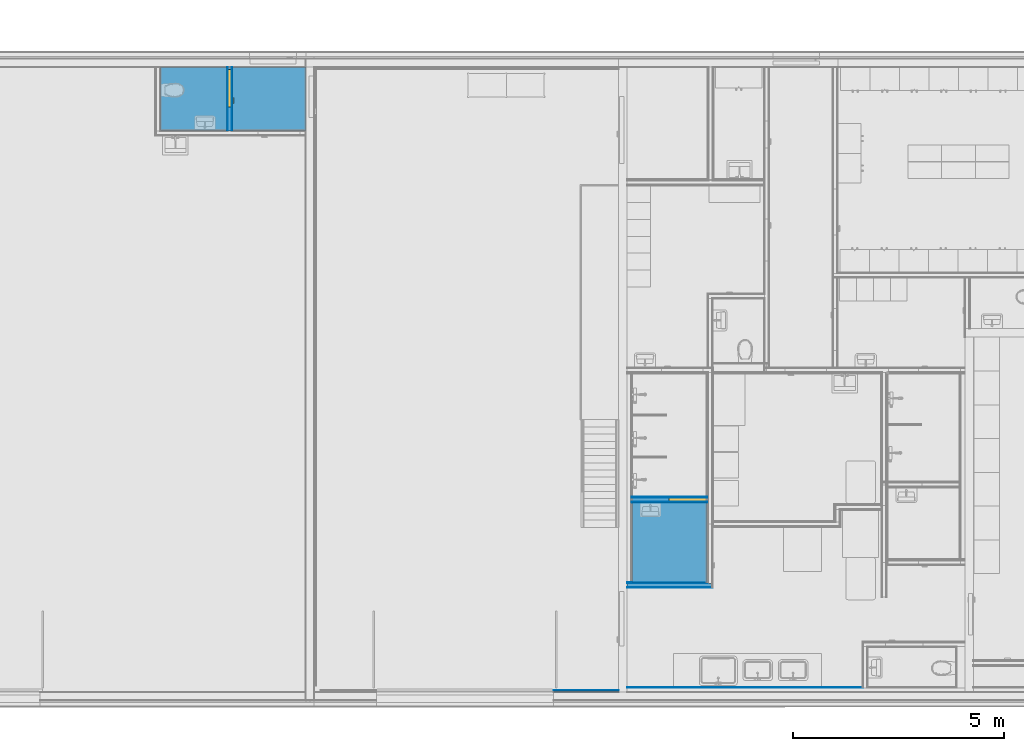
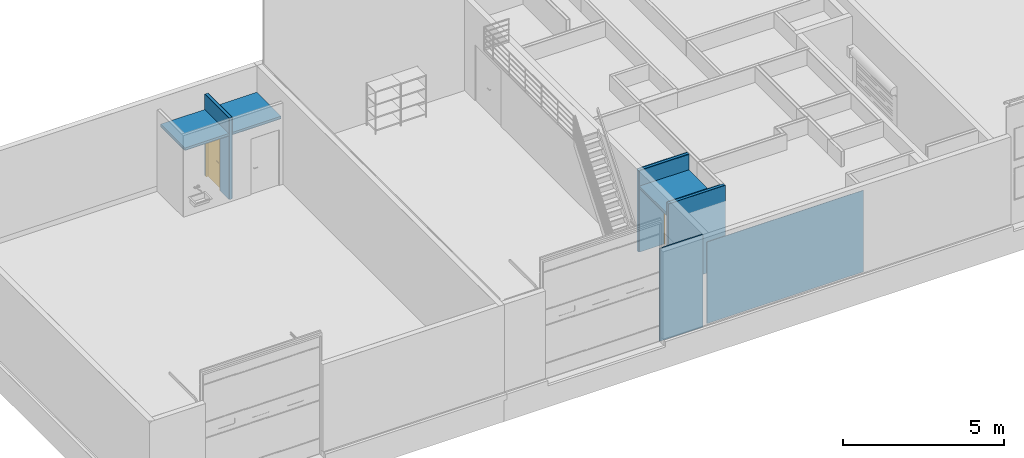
# One storey, part 3 of 67: 21 building element parts, 2 doors, 2 openings, 8 elements without a shape of their own.
"""IFC4 building model written with IfcOpenShell, lengths in millimetres."""

from ifc_helpers import new_model, entity, si_unit, converted_unit, direction, frame, origin, place, context, subcontext, project, spatial, indexed_curve, outline, extrude, polygons, source, transform, mapped, material, constituent, constituent_set, type_object, type_shapes, element, fill, aggregate, save


model = new_model("IFC4")

# Units and contexts
model_context = context("Model", 3, precision=0.01, world=origin(), true_north=direction((0.0, 1.0)))
body_context = subcontext(model_context, "Body", "Model", "MODEL_VIEW")
ifc_project = project(units=[si_unit("LENGTHUNIT", "METRE", prefix="MILLI"), si_unit("AREAUNIT", "SQUARE_METRE"), si_unit("VOLUMEUNIT", "CUBIC_METRE"), converted_unit("PLANEANGLEUNIT", "DEGREE", entity("IfcPlaneAngleMeasure", 0.017453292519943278), si_unit("PLANEANGLEUNIT", "RADIAN"), dimensions=[0, 0, 0, 0, 0, 0, 0])], contexts=[model_context])

# Site, building, storey
site_placement = place(None, origin())
site = spatial("IfcSite", under=ifc_project, at=site_placement, Name="Tomtens navn", CompositionType="ELEMENT")
building_placement = place(site_placement, origin())
building = spatial("IfcBuilding", under=site, at=building_placement, Name="Byggets navn", CompositionType="ELEMENT")
storey_placement = place(building_placement, origin())
storey = spatial("IfcBuildingStorey", under=building, at=storey_placement, Name="Level 01", CompositionType="ELEMENT", Elevation=2.1993652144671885e-25)

# Door
ifc_material_1 = material(Name="<Unnamed>")
door_type_1 = type_object("IfcDoorType", Name="M_Door_ID_Cased-Opening:910 x 2110mm", OperationType="NOTDEFINED", PredefinedType="DOOR", material=ifc_material_1)
shared_shape_1 = source(origin(), body_context, "Body", "Tessellation", [
    polygons([(869.9999999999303, 1.0151879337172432e-13, 0.0), (869.9999999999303, 147.00000000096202, 0.0), (910.0000000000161, 147.00000000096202, 0.0), (910.0000000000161, 1.0151879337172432e-13, 0.0), (910.0000000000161, 1.0151879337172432e-13, 2109.999999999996), (869.9999999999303, 1.0151879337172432e-13, 2069.9999999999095), (910.0000000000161, 147.00000000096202, 2109.999999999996), (869.9999999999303, 147.00000000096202, 2069.9999999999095), (6.497202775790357e-12, 1.0151879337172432e-13, 2109.999999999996), (40.00000000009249, 1.0151879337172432e-13, 2069.99999999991), (6.497202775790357e-12, 147.00000000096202, 2109.999999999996), (40.00000000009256, 147.00000000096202, 2069.99999999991), (40.00000000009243, 1.0151879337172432e-13, 0.0), (6.497202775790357e-12, 1.0151879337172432e-13, 0.0), (6.497202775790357e-12, 147.00000000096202, 0.0), (40.00000000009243, 147.00000000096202, 0.0)], [[[1, 2, 3, 4]], [[4, 5, 6, 1]], [[3, 7, 5, 4]], [[2, 8, 7, 3]], [[1, 6, 8, 2]], [[5, 9, 10, 6]], [[7, 11, 9, 5]], [[8, 12, 11, 7]], [[6, 10, 12, 8]], [[13, 14, 15, 16]], [[9, 14, 13, 10]], [[11, 15, 14, 9]], [[12, 16, 15, 11]], [[10, 13, 16, 12]]], closed=True),
])
type_shapes(door_type_1, [shared_shape_1])
wall_4_placement = place(storey_placement, frame((60513.853528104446, 12618.966456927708, 0.0), z_axis=(0.0, 0.0, 1.0), x_axis=(-1.0, 0.0, 0.0)))
opening_1_placement = place(wall_4_placement, frame((-10.0, -73.50000000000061, 0.0)))
door_1_placement = place(opening_1_placement, origin())
door_1 = element("IfcDoor", 1, at=door_1_placement, inside=storey, type_object=door_type_1, material=ifc_material_1, Name="M_Door_ID_Cased-Opening:910 x 2110mm", OverallHeight=2109.9999999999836, OverallWidth=910.000000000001, PredefinedType="DOOR", context=body_context, shape_type="MappedRepresentation", body=[
    mapped(shared_shape_1, transform((0.0, 0.0, 0.0), scale=1.0)),
])

ifc_material_2 = material(Name="Rustfritt Stål", Category="Metal")
ifc_constituent_1 = constituent(ifc_material_2, Name="Rustfritt Stål", Category="Metal", fraction=0.0019857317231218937)
ifc_material_3 = material(Name="NO_Maling - Hvit", Category="Overflatebehandling")
ifc_constituent_2 = constituent(ifc_material_3, Name="NO_Maling - Hvit", Category="Overflatebehandling", fraction=0.7764080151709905)
ifc_material_4 = material(Name="Hvit", Category="Paint")
ifc_constituent_3 = constituent(ifc_material_4, Name="Hvit", Category="Paint", fraction=0.2216062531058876)
ifc_constituent_set_1 = constituent_set(constituents=[ifc_constituent_1, ifc_constituent_2, ifc_constituent_3])
ifc_constituent_4 = constituent(ifc_material_2, Name="Rustfritt Stål", Category="Metal", fraction=0.0019857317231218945)
ifc_constituent_5 = constituent(ifc_material_3, Name="Panel", Category="Overflatebehandling", fraction=0.7764080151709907)
ifc_constituent_6 = constituent(ifc_material_4, Name="Frame/Mullion", Category="Paint", fraction=0.22160625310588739)
ifc_constituent_set_2 = constituent_set(constituents=[ifc_constituent_4, ifc_constituent_5, ifc_constituent_6])
door_type_2 = type_object("IfcDoorType", Name="Enfløyet:ID04 Tredør 9x21M", OperationType="SINGLE_SWING_LEFT", PredefinedType="DOOR", material=ifc_constituent_set_2)
shared_shape_2 = source(origin(), body_context, "Body", "SweptSolid", [
    extrude(outline(indexed_curve([(-33.33333333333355, -50.833333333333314), (24.16666666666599, -50.833333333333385), (24.16666666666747, 86.66666666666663), (9.166666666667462, 86.6666666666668), (9.166666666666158, -35.83333333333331), (-33.33333333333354, -35.83333333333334), (-33.33333333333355, -50.833333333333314)], self_intersect=False)), frame((768.666666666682, 119.94103942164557, 980.5000000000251), z_axis=(0.0, 0.0, 1.0), x_axis=(0.0, 1.0, 0.0)), (0.0, 0.0, 1.0), 14.999999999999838),
    extrude(outline(indexed_curve([(-2.8000000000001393, -25.000000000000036), (2.799999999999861, -25.000000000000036), (2.8000000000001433, 25.000000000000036), (-2.799999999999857, 24.999999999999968), (-2.8000000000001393, -25.000000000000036)], self_intersect=False)), frame((812.0, 83.80000000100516, 850.9862950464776), z_axis=(0.0, 0.0, 1.0), x_axis=(0.0, -1.0, 0.0)), (0.0, 0.0, 1.0), 159.01370495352),
    extrude(outline(indexed_curve([(-50.83333333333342, -33.33333333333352), (-35.83333333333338, -33.33333333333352), (-35.83333333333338, 9.16666666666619), (86.66666666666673, 9.166666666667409), (86.66666666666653, 24.1666666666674), (-50.83333333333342, 24.16666666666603), (-50.83333333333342, -33.33333333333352)], self_intersect=False)), frame((768.6666666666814, 2.0589605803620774, 980.5000000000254), z_axis=(0.0, 0.0, 1.0), x_axis=(-1.0, 0.0, 0.0)), (0.0, 0.0, 1.0), 14.999999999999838),
    extrude(outline(indexed_curve([(-25.0, -2.8000000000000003), (25.0, -2.8000000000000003), (24.999999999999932, 2.799999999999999), (-25.0, 2.8000000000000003), (-25.0, -2.8000000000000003)], self_intersect=False)), frame((812.0, 38.200000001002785, 850.9862950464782)), (0.0, 0.0, 1.0), 159.01370495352),
    extrude(outline(indexed_curve([(-406.9999999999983, -20.0), (406.9999999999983, -20.0), (406.9999999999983, 20.0), (-406.9999999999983, 20.0), (-406.9999999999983, -20.0)], self_intersect=False)), frame((455.0, 61.00000000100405, 10.0)), (0.0, 0.0, 1.0), 2042.0),
    extrude(outline(indexed_curve([(406.9999999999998, -1035.4999999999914), (444.9999999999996, -1035.4999999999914), (444.9999999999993, 1054.4999999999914), (-444.9999999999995, 1054.4999999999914), (-444.9999999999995, -1035.4999999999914), (-406.9999999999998, -1035.4999999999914), (-406.9999999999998, 1016.4999999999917), (406.99999999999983, 1016.4999999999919), (406.9999999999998, -1035.4999999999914)], self_intersect=False)), frame((455.0, 81.00000000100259, 1035.4999999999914), z_axis=(0.0, -1.0, 0.0), x_axis=(1.0, 0.0, 0.0)), (0.0, 0.0, 1.0), 99.99999999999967),
])
type_shapes(door_type_2, [shared_shape_2])
wall_5_placement = place(storey_placement, frame((49212.85352810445, 22861.466456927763, 0.0), z_axis=(0.0, 0.0, 1.0), x_axis=(0.0, -1.0, 0.0)))
opening_2_placement = place(wall_5_placement, frame((40.0, -60.500000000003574, 0.0)))
door_2_placement = place(opening_2_placement, frame((0.0, 20.0, 0.0)))
door_2 = element("IfcDoor", 2, at=door_2_placement, inside=storey, type_object=door_type_2, material=ifc_constituent_set_1, Name="Enfløyet:ID04 Tredør 9x21M", OverallHeight=2110.000000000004, OverallWidth=909.9999999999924, PredefinedType="DOOR", context=body_context, shape_type="MappedRepresentation", body=[
    mapped(shared_shape_2, transform((0.0, 0.0, 0.0), scale=1.0)),
])

# Space
space_1_placement = place(storey_placement, origin())
space_1 = spatial("IfcSpace", under=storey, at=space_1_placement, CompositionType="ELEMENT", PredefinedType="NOTDEFINED")

# Covering, building element parts
covering_type = type_object("IfcCoveringType", Name="Compound Ceiling:H01 257_Systemhimling 600x600, tykkelse 100", PredefinedType="CEILING")
covering_1_placement = place(space_1_placement, origin())
covering_1 = element("IfcCovering", 3, at=covering_1_placement, inside=space_1, type_object=covering_type, Name="Compound Ceiling:H01 257_Systemhimling 600x600, tykkelse 100", PredefinedType="CEILING")
ifc_material_5 = material(Name="NO_Himling (type ikke bestemt)", Category="Diverse")
building_element_part_1_placement = place(covering_1_placement, origin())
building_element_part_1 = element("IfcBuildingElementPart", 4, at=building_element_part_1_placement, material=ifc_material_5, Name="NO_Himling (type ikke bestemt)", context=body_context, shape_type="SweptSolid", body=[
    extrude(outline(indexed_curve([(-942.4999999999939, -884.9999999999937), (942.4999999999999, -884.9999999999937), (942.4999999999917, 885.0000000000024), (-942.500000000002, 885.0000000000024), (-942.4999999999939, -884.9999999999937)], self_intersect=False)), frame((59628.85352810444, 11602.966456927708, 2420.0), z_axis=(0.0, 0.0, 1.0), x_axis=(0.0, -1.0, 0.0)), (0.0, 0.0, 1.0), 79.99999999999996),
])
ifc_material_6 = material(Name="NO_Himling 600x600", Category="Diverse")
building_element_part_2_placement = place(covering_1_placement, origin())
building_element_part_2 = element("IfcBuildingElementPart", 5, at=building_element_part_2_placement, material=ifc_material_6, Name="NO_Himling 600x600", context=body_context, shape_type="SweptSolid", body=[
    extrude(outline(indexed_curve([(-942.4999999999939, -884.9999999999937), (942.4999999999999, -884.9999999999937), (942.4999999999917, 885.0000000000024), (-942.500000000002, 885.0000000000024), (-942.4999999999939, -884.9999999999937)], self_intersect=False)), frame((59628.85352810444, 11602.966456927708, 2400.0), z_axis=(0.0, 0.0, 1.0), x_axis=(0.0, -1.0, 0.0)), (0.0, 0.0, 1.0), 20.000000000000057),
])
aggregate(covering_1, [building_element_part_1, building_element_part_2])

# Wall, building element parts
wall_type_1 = type_object("IfcWallType", Name="Basic Wall:IV17 - Utforing lekt+fasadeplater", PredefinedType="STANDARD")
wall_1_placement = place(storey_placement, frame((51362.853528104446, 8084.466456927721, 0.0)))
wall_1 = element("IfcWall", 6, at=wall_1_placement, inside=storey, type_object=wall_type_1, Name="Basic Wall:IV17 - Utforing lekt+fasadeplater", PredefinedType="NOTDEFINED")
ifc_material_7 = material(Name="NO_platekledning", Category="Tre")
building_element_part_3_placement = place(wall_1_placement, origin())
building_element_part_3 = element("IfcBuildingElementPart", 7, at=building_element_part_3_placement, material=ifc_material_7, Name="NO_platekledning", context=body_context, shape_type="SweptSolid", body=[
    extrude(outline(indexed_curve([(-5.000000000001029, -770.0000000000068), (4.999999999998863, -770.0000000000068), (4.999999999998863, 770.0000000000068), (-5.000000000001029, 770.0000000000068), (-5.000000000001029, -770.0000000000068)], self_intersect=False)), frame((6290.0, 18.0, 0.0), z_axis=(0.0, 0.0, 1.0), x_axis=(0.0, -1.0, 0.0)), (0.0, 0.0, 1.0), 3499.999999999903),
])
ifc_material_8 = material(Name="Stender", Category="Unassigned")
building_element_part_4_placement = place(wall_1_placement, origin())
building_element_part_4 = element("IfcBuildingElementPart", 8, at=building_element_part_4_placement, material=ifc_material_8, Name="Stender", context=body_context, shape_type="SweptSolid", body=[
    extrude(outline(indexed_curve([(-18.000000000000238, -770.0000000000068), (18.000000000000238, -770.0000000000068), (18.000000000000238, 770.0000000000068), (-18.000000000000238, 770.0000000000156), (-18.000000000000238, -770.0000000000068)], self_intersect=False)), frame((6290.0, -5.0, 0.0), z_axis=(0.0, 0.0, 1.0), x_axis=(0.0, -1.0, 0.0)), (0.0, 0.0, 1.0), 3499.999999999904),
])
aggregate(wall_1, [building_element_part_3, building_element_part_4])

# Wall, building element part
wall_type_2 = type_object("IfcWallType", Name="Basic Wall:IV12 Utforing Stender(48)-Forestia", PredefinedType="STANDARD")
wall_2_placement = place(storey_placement, frame((66622.85352810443, 8118.466456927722, 0.0), z_axis=(0.0, 0.0, 1.0), x_axis=(-1.0, 0.0, 0.0)))
wall_2 = element("IfcWall", 9, at=wall_2_placement, inside=storey, type_object=wall_type_2, Name="Basic Wall:IV12 Utforing Stender(48)-Forestia", PredefinedType="NOTDEFINED")
ifc_material_9 = material(Name="NO_platekledning forestia", Category="Tre")
building_element_part_5_placement = place(wall_2_placement, origin())
building_element_part_5 = element("IfcBuildingElementPart", 10, at=building_element_part_5_placement, material=ifc_material_9, Name="NO_platekledning forestia", context=body_context, shape_type="SweptSolid", body=[
    extrude(outline(indexed_curve([(-7.500000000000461, -2798.0786807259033), (7.499999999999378, -2798.0786807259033), (7.500000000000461, 2798.0786807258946), (-7.500000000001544, 2798.0786807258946), (-7.500000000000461, -2798.0786807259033)], self_intersect=False)), frame((5201.921319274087, -47.49999999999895, 0.0), z_axis=(0.0, 0.0, 1.0), x_axis=(0.0, 1.0, 0.0)), (0.0, 0.0, 1.0), 3087.999999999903),
])
aggregate(wall_2, [building_element_part_5])

# Wall, building element parts
wall_type_3 = type_object("IfcWallType", Name="Basic Wall:IV08 Forestia 95 stålstender +15mm kryssfiner+baderomsplater 2", PredefinedType="STANDARD")
wall_3_placement = place(storey_placement, frame((58622.85352810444, 10593.466456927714, 0.0)))
wall_3 = element("IfcWall", 11, at=wall_3_placement, inside=storey, type_object=wall_type_3, Name="Basic Wall:IV08 Forestia 95 stålstender +15mm kryssfiner+baderomsplater 2", PredefinedType="NOTDEFINED")
ifc_material_10 = material(Name="NO_Kryssfiner", Category="Tre")
building_element_part_6_placement = place(wall_3_placement, origin())
building_element_part_6 = element("IfcBuildingElementPart", 12, at=building_element_part_6_placement, material=ifc_material_10, Name="NO_Kryssfiner", context=body_context, shape_type="SweptSolid", body=[
    extrude(outline(indexed_curve([(-7.500000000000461, -958.4999999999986), (7.500000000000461, -958.4999999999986), (7.500000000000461, 958.4999999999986), (-7.500000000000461, 958.4999999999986), (-7.500000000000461, -958.4999999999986)], self_intersect=False)), frame((958.5000000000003, 48.4999999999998, 0.0), z_axis=(0.0, 0.0, 1.0), x_axis=(0.0, -1.0, 0.0)), (0.0, 0.0, 1.0), 3087.999999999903),
])
building_element_part_7_placement = place(wall_3_placement, origin())
building_element_part_7 = element("IfcBuildingElementPart", 13, at=building_element_part_7_placement, material=ifc_material_8, Name="Stender", context=body_context, shape_type="SweptSolid", body=[
    extrude(outline(indexed_curve([(-47.50000000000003, -1005.9999999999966), (47.50000000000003, -1005.9999999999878), (47.50000000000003, 1005.9999999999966), (-47.50000000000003, 1005.9999999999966), (-47.50000000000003, -1005.9999999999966)], self_intersect=False)), frame((1006.0, -6.500000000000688, 0.0), z_axis=(0.0, 0.0, 1.0), x_axis=(0.0, -1.0, 0.0)), (0.0, 0.0, 1.0), 3087.999999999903),
])
building_element_part_8_placement = place(wall_3_placement, origin())
building_element_part_8 = element("IfcBuildingElementPart", 14, at=building_element_part_8_placement, material=ifc_material_9, Name="NO_platekledning forestia", context=body_context, shape_type="SweptSolid", body=[
    extrude(outline(indexed_curve([(-6.499999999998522, -1012.4999999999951), (6.500000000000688, -1012.5000000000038), (6.500000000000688, 1012.4999999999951), (-6.499999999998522, 1012.5000000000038), (-6.499999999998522, -1012.4999999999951)], self_intersect=False)), frame((1012.5000000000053, -60.49999999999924, 0.0), z_axis=(0.0, 0.0, 1.0), x_axis=(0.0, -1.0, 0.0)), (0.0, 0.0, 1.0), 3087.999999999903),
])
ifc_material_11 = material(Name="NO_Baderomsplater", Category="Tre")
building_element_part_9_placement = place(wall_3_placement, origin())
building_element_part_9 = element("IfcBuildingElementPart", 15, at=building_element_part_9_placement, material=ifc_material_11, Name="NO_Baderomsplater", context=body_context, shape_type="SweptSolid", body=[
    extrude(outline(indexed_curve([(-5.500000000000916, -951.0000000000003), (5.4999999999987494, -951.0000000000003), (5.4999999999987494, 950.9999999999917), (-5.500000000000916, 950.9999999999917), (-5.500000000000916, -951.0000000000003)], self_intersect=False)), frame((951.0, 61.49999999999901, 0.0), z_axis=(0.0, 0.0, 1.0), x_axis=(0.0, -1.0, 0.0)), (0.0, 0.0, 1.0), 3087.999999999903),
])
aggregate(wall_3, [building_element_part_6, building_element_part_7, building_element_part_8, building_element_part_9])

# Wall, opening
wall_type_4 = type_object("IfcWallType", Name="Basic Wall:IV09 Badromsplate+15mm kryssf+ 95 stålstender +15mm kryssfiner+baderomsplater 2", PredefinedType="STANDARD")
wall_4 = element("IfcWall", 16, at=wall_4_placement, inside=storey, type_object=wall_type_4, Name="Basic Wall:IV09 Badromsplate+15mm kryssf+ 95 stålstender +15mm kryssfiner+baderomsplater 2", PredefinedType="NOTDEFINED")
opening_1 = element("IfcOpeningElement", 17, at=opening_1_placement, cuts=wall_4, Name="M_Door_ID_Cased-Opening:910 x 2110mm:1", PredefinedType="OPENING", context=body_context, shape_type="SweptSolid", body=[
    extrude(outline(indexed_curve([(0.0, 1.0828671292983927e-12), (2109.9999999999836, 1.0828671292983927e-12), (2109.9999999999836, 910.000000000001), (0.0, 910.000000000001), (0.0, 1.0828671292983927e-12)], self_intersect=False)), frame((0.0, 0.0, 0.0), z_axis=(0.0, 1.0, 0.0), x_axis=(0.0, 0.0, 1.0)), (0.0, 0.0, 1.0), 147.00000000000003),
])

fill(opening_1, door_1)

# Building element part
building_element_part_10_placement = place(wall_4_placement, frame((1781.0, -47.50000000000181, 0.0)))
building_element_part_10 = element("IfcBuildingElementPart", 18, at=building_element_part_10_placement, material=ifc_material_10, Name="NO_Kryssfiner", context=body_context, shape_type="Tessellation", body=[
    polygons([(1.0522985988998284e-12, 0.0, 7.331217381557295e-26), (-881.0000000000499, 0.0, 7.331217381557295e-26), (-881.0000000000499, 0.0, 2109.9999999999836), (-1791.9999999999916, 0.0, 2109.9999999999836), (-1791.9999999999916, 0.0, 3079.9999999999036), (1.0522985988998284e-12, 0.0, 3079.9999999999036), (-881.0000000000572, -15.0, 7.331217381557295e-26), (1.0535447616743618e-12, -15.0, 7.331217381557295e-26), (1.0535447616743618e-12, -15.0, 3079.9999999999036), (-1791.9999999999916, -15.0, 3079.9999999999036), (-1791.9999999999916, -15.0, 2109.9999999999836), (-881.0000000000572, -15.0, 2109.9999999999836)], [[[1, 2, 3, 4, 5, 6]], [[7, 8, 9, 10, 11, 12]], [[1, 8, 7, 2]], [[9, 6, 5, 10]], [[11, 4, 3, 12]], [[2, 7, 12, 3]], [[10, 5, 4, 11]], [[8, 1, 6, 9]]], closed=True),
])

building_element_part_11_placement = place(wall_4_placement, frame((1770.0, -62.500000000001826, 0.0)))
building_element_part_11 = element("IfcBuildingElementPart", 19, at=building_element_part_11_placement, material=ifc_material_11, Name="NO_Baderomsplater", context=body_context, shape_type="Tessellation", body=[
    polygons([(-1.349837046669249e-11, 1.8189894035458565e-12, 7.331217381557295e-26), (-870.0000000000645, 1.8189894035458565e-12, 7.331217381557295e-26), (-870.0000000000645, 1.8189894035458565e-12, 2109.9999999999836), (-1769.9999999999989, 1.8189894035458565e-12, 2109.9999999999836), (-1769.9999999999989, 1.8189894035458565e-12, 3079.9999999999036), (-1.349837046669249e-11, 1.8189894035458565e-12, 3079.9999999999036), (1.0544586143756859e-12, -10.999999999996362, 2.1993652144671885e-25), (-870.0000000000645, -10.999999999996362, 2.1993652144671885e-25), (-1769.9999999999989, -10.999999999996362, 3079.9999999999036), (1.0544586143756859e-12, -10.999999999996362, 3079.9999999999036), (-1769.9999999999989, -10.999999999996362, 2109.9999999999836), (-870.0000000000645, -10.999999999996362, 2109.9999999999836)], [[[1, 2, 3, 4, 5, 6]], [[7, 8, 2, 1]], [[9, 10, 6, 5]], [[10, 7, 1, 6]], [[11, 9, 5, 4]], [[12, 11, 4, 3]], [[8, 12, 3, 2]], [[10, 9, 11, 12, 8, 7]]], closed=True),
])

building_element_part_12_placement = place(wall_4_placement, frame((1781.0, 62.50000000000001, 0.0)))
building_element_part_12 = element("IfcBuildingElementPart", 20, at=building_element_part_12_placement, material=ifc_material_10, Name="NO_Kryssfiner", context=body_context, shape_type="Tessellation", body=[
    polygons([(-881.0000000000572, -15.0, 7.331217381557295e-26), (1.0444062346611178e-12, -15.0, 7.331217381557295e-26), (1.0444062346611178e-12, -15.0, 3079.9999999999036), (-1791.9999999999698, -15.0, 3079.9999999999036), (-1791.9999999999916, -15.0, 2109.9999999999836), (-881.0000000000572, -15.0, 2109.9999999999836), (1.0431600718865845e-12, 1.8189894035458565e-12, 7.331217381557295e-26), (-881.0000000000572, 1.8189894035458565e-12, 7.331217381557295e-26), (-881.0000000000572, 1.8189894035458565e-12, 2109.9999999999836), (-1791.9999999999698, 1.8189894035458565e-12, 2109.9999999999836), (-1791.9999999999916, 1.8189894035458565e-12, 3079.9999999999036), (1.0431600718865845e-12, 1.8189894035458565e-12, 3079.9999999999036)], [[[1, 2, 3, 4, 5, 6]], [[7, 8, 9, 10, 11, 12]], [[7, 2, 1, 8]], [[3, 12, 11, 4]], [[5, 10, 9, 6]], [[8, 1, 6, 9]], [[4, 11, 10, 5]], [[2, 7, 12, 3]]], closed=True),
])

building_element_part_13_placement = place(wall_4_placement, frame((1770.0, 73.5, 0.0)))
building_element_part_13 = element("IfcBuildingElementPart", 21, at=building_element_part_13_placement, material=ifc_material_11, Name="NO_Baderomsplater", context=body_context, shape_type="Tessellation", body=[
    polygons([(-870.0000000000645, -10.999999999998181, 7.331217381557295e-26), (-1.3508755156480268e-11, -10.999999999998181, 7.331217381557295e-26), (-1.3508755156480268e-11, -10.999999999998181, 3079.9999999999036), (-1769.9999999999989, -10.999999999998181, 3079.9999999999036), (-1769.9999999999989, -10.999999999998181, 2109.9999999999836), (-870.0000000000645, -10.999999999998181, 2109.9999999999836), (-870.0000000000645, 1.8189894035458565e-12, 2.1993652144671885e-25), (1.0422462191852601e-12, 1.8189894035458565e-12, 2.1993652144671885e-25), (1.0422462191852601e-12, 1.8189894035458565e-12, 3079.9999999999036), (-1769.9999999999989, 1.8189894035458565e-12, 3079.9999999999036), (-1769.9999999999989, 1.8189894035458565e-12, 2109.9999999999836), (-870.0000000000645, 1.8189894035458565e-12, 2109.9999999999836)], [[[1, 2, 3, 4, 5, 6]], [[7, 8, 2, 1]], [[9, 10, 4, 3]], [[8, 9, 3, 2]], [[10, 11, 5, 4]], [[11, 12, 6, 5]], [[12, 7, 1, 6]], [[10, 9, 8, 7, 12, 11]]], closed=True),
])

building_element_part_14_placement = place(wall_4_placement, frame((1796.0, 47.49999999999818, 0.0)))
building_element_part_14 = element("IfcBuildingElementPart", 22, at=building_element_part_14_placement, material=ifc_material_8, Name="Stender", context=body_context, shape_type="Tessellation", body=[
    polygons([(8.320363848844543e-12, 0.0, 7.331217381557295e-26), (-896.0000000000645, 0.0, 7.331217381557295e-26), (-896.0000000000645, 0.0, 2109.9999999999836), (-1822.0000000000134, 0.0, 2109.9999999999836), (-1822.0000000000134, 0.0, 3079.9999999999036), (8.320363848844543e-12, 0.0, 3079.9999999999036), (-896.0000000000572, -95.0, 7.331217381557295e-26), (8.328256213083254e-12, -95.0, 7.331217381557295e-26), (8.328256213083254e-12, -95.0, 3079.9999999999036), (-1822.0000000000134, -95.0, 3079.9999999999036), (-1822.0000000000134, -95.0, 2109.9999999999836), (-896.0000000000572, -95.0, 2109.9999999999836)], [[[1, 2, 3, 4, 5, 6]], [[7, 8, 9, 10, 11, 12]], [[1, 8, 7, 2]], [[9, 6, 5, 10]], [[11, 4, 3, 12]], [[2, 7, 12, 3]], [[10, 5, 4, 11]], [[8, 1, 6, 9]]], closed=True),
])

aggregate(wall_4, [building_element_part_10, building_element_part_11, building_element_part_12, building_element_part_13, building_element_part_14])

# Wall, opening
wall_type_5 = type_object("IfcWallType", Name="Basic Wall:IV02 Gips Stender Gips-120mm", PredefinedType="STANDARD")
wall_5 = element("IfcWall", 23, at=wall_5_placement, inside=storey, type_object=wall_type_5, Name="Basic Wall:IV02 Gips Stender Gips-120mm", PredefinedType="NOTDEFINED")
opening_2 = element("IfcOpeningElement", 24, at=opening_2_placement, cuts=wall_5, Name="Enfløyet:ID04 Tredør 9x21M:1", PredefinedType="OPENING", context=body_context, shape_type="SweptSolid", body=[
    extrude(outline(indexed_curve([(0.0, 0.0), (2110.000000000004, 0.0), (2110.000000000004, 909.9999999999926), (0.0, 909.9999999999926), (0.0, 0.0)], self_intersect=False)), frame((0.0, 0.0, 0.0), z_axis=(0.0, 1.0, 0.0), x_axis=(0.0, 0.0, 1.0)), (0.0, 0.0, 1.0), 120.99999999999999),
])

fill(opening_2, door_2)

# Building element part
building_element_part_15_placement = place(wall_5_placement, frame((1513.0, -47.49999999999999, 0.0)))
building_element_part_15 = element("IfcBuildingElementPart", 25, at=building_element_part_15_placement, material=ifc_material_8, Name="Stender", context=body_context, shape_type="Tessellation", body=[
    polygons([(-1472.9999999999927, 0.0, 7.331217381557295e-26), (-1513.0000000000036, 0.0, 7.331217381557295e-26), (-1513.0000000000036, 94.99999999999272, 7.331217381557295e-26), (-1472.9999999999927, 94.99999999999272, 7.331217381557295e-26), (-1472.9999999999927, 0.0, 200.0000000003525), (-1472.9999999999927, 94.99999999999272, 200.0000000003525), (-1472.9999999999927, 94.99999999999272, 2110.000000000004), (-1472.9999999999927, 0.0, 2110.000000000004), (-563.0, 0.0, 7.331217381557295e-26), (-563.0, 0.0, 200.0000000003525), (-563.0, 0.0, 2110.000000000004), (-563.0, 94.99999999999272, 2110.0000000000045), (-563.0, 94.99999999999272, 200.0000000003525), (-563.0, 94.99999999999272, 7.331217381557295e-26), (0.0, 0.0, 7.331217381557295e-26), (0.0, 94.99999999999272, 7.331217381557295e-26), (-1513.0000000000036, 0.0, 200.0000000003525), (-1513.0000000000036, 94.99999999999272, 200.0000000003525), (0.0, 94.99999999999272, 200.0000000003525), (0.0, 94.99999999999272, 3079.9999999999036), (0.0, 0.0, 3079.9999999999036), (0.0, 0.0, 200.0000000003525), (-1515.0, 0.0, 200.0000000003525), (-1515.0, 94.99999999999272, 200.0000000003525), (-1515.0, 0.0, 3079.9999999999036), (-1515.0, 94.99999999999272, 3079.9999999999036)], [[[1, 2, 3, 4]], [[5, 1, 4, 6, 7, 8]], [[9, 10, 11, 12, 13, 14]], [[15, 9, 14, 16]], [[2, 17, 18, 3]], [[15, 16, 19, 20, 21, 22]], [[23, 24, 18, 17]], [[11, 8, 7, 12]], [[25, 21, 20, 26]], [[24, 23, 25, 26]], [[14, 13, 12, 7, 6, 4, 3, 18, 24, 26, 20, 19, 16]], [[10, 9, 15, 22, 21, 25, 23, 17, 2, 1, 5, 8, 11]]], closed=True),
])

ifc_material_12 = material(Name="Gipsplater", Category="NOR ^ Gips")
building_element_part_16_placement = place(wall_5_placement, frame((1500.0, -60.5, 0.0)))
building_element_part_16 = element("IfcBuildingElementPart", 26, at=building_element_part_16_placement, material=ifc_material_12, Name="Gipsplater", context=body_context, shape_type="Tessellation", body=[
    polygons([(-1459.9999999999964, 0.0, 2.1993652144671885e-25), (-1500.0000000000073, 0.0, 2.1993652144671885e-25), (-1500.0000000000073, 13.0, 7.331217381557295e-26), (-1459.9999999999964, 13.0, 7.331217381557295e-26), (-1459.9999999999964, 13.0, 200.0000000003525), (-1459.9999999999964, 13.0, 2110.000000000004), (-1459.9999999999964, 0.0, 2110.0000000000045), (-1459.9999999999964, 0.0, 200.0000000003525), (-550.0000000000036, 0.0, 2.1993652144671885e-25), (-550.0000000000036, 0.0, 200.00000000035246), (-550.0000000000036, 0.0, 2110.0000000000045), (-550.0000000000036, 13.0, 2110.000000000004), (-550.0000000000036, 13.0, 200.0000000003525), (-550.0000000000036, 13.0, 7.331217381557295e-26), (-3.637978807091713e-12, 13.0, 7.331217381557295e-26), (-3.637978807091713e-12, 0.0, 2.1993652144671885e-25), (-3.637978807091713e-12, 0.0, 200.00000000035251), (-3.637978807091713e-12, 13.0, 200.0000000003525), (-3.637978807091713e-12, 13.0, 3079.9999999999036), (-3.637978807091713e-12, 0.0, 3079.9999999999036), (-1500.0000000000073, 0.0, 200.00000000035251), (-1500.0000000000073, 0.0, 3079.9999999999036), (-1500.0000000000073, 13.0, 3079.9999999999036), (-1500.0000000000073, 13.0, 200.0000000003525)], [[[1, 2, 3, 4]], [[1, 4, 5, 6, 7, 8]], [[9, 10, 11, 12, 13, 14]], [[15, 16, 9, 14]], [[17, 16, 15, 18, 19, 20]], [[3, 2, 21, 22, 23, 24]], [[11, 7, 6, 12]], [[22, 20, 19, 23]], [[18, 15, 14, 13, 12, 6, 5, 4, 3, 24, 23, 19]], [[16, 17, 20, 22, 21, 2, 1, 8, 7, 11, 10, 9]]], closed=True),
])

building_element_part_17_placement = place(wall_5_placement, frame((1500.0, 47.49999999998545, 0.0)))
building_element_part_17 = element("IfcBuildingElementPart", 27, at=building_element_part_17_placement, material=ifc_material_12, Name="Gipsplater", context=body_context, shape_type="Tessellation", body=[
    polygons([(-1459.9999999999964, 7.275957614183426e-12, 7.331217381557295e-26), (-1500.0000000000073, 7.275957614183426e-12, 7.331217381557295e-26), (-1500.0000000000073, 13.000000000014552, 2.1993652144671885e-25), (-1459.9999999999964, 13.000000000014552, 2.1993652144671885e-25), (-1459.9999999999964, 7.275957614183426e-12, 200.0000000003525), (-1459.9999999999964, 13.000000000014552, 200.00000000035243), (-1459.9999999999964, 13.000000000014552, 2110.000000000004), (-1459.9999999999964, 7.275957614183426e-12, 2110.0000000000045), (-550.0000000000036, 7.275957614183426e-12, 7.331217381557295e-26), (-550.0000000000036, 7.275957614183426e-12, 200.0000000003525), (-550.0000000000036, 7.275957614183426e-12, 2110.0000000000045), (-550.0000000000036, 13.000000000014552, 2110.000000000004), (-550.0000000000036, 13.000000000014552, 200.0000000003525), (-550.0000000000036, 13.000000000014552, 2.1993652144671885e-25), (-3.637978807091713e-12, 7.275957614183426e-12, 7.331217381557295e-26), (-3.637978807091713e-12, 13.000000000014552, 2.1993652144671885e-25), (-3.637978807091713e-12, 7.275957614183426e-12, 200.00000000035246), (-3.637978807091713e-12, 13.000000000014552, 200.00000000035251), (-3.637978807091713e-12, 13.000000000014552, 3079.9999999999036), (-3.637978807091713e-12, 7.275957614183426e-12, 3079.9999999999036), (-1500.0000000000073, 7.275957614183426e-12, 200.0000000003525), (-1500.0000000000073, 7.275957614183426e-12, 3079.9999999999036), (-1500.0000000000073, 13.000000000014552, 3079.9999999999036), (-1500.0000000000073, 13.000000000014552, 200.00000000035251)], [[[1, 2, 3, 4]], [[5, 1, 4, 6, 7, 8]], [[9, 10, 11, 12, 13, 14]], [[15, 9, 14, 16]], [[17, 15, 16, 18, 19, 20]], [[2, 21, 22, 23, 24, 3]], [[18, 16, 14, 13, 12, 7, 6, 4, 3, 24, 23, 19]], [[11, 8, 7, 12]], [[22, 20, 19, 23]], [[10, 9, 15, 17, 20, 22, 21, 2, 1, 5, 8, 11]]], closed=True),
])

aggregate(wall_5, [building_element_part_15, building_element_part_16, building_element_part_17])

# Space
space_2_placement = place(storey_placement, origin())
space_2 = spatial("IfcSpace", under=storey, at=space_2_placement, CompositionType="ELEMENT", PredefinedType="NOTDEFINED")

# Covering, building element parts
covering_2_placement = place(space_2_placement, origin())
covering_2 = element("IfcCovering", 28, at=covering_2_placement, inside=space_2, type_object=covering_type, Name="Compound Ceiling:H01 257_Systemhimling 600x600, tykkelse 100", PredefinedType="CEILING")
building_element_part_18_placement = place(covering_2_placement, origin())
building_element_part_18 = element("IfcBuildingElementPart", 29, at=building_element_part_18_placement, material=ifc_material_5, Name="NO_Himling (type ikke bestemt)", context=body_context, shape_type="SweptSolid", body=[
    extrude(outline(indexed_curve([(-750.0000000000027, -789.5000000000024), (749.9999999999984, -789.5000000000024), (749.9999999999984, 789.4999999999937), (-750.0000000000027, 789.5000000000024), (-750.0000000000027, -789.5000000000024)], self_intersect=False)), frame((48362.85352810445, 22111.46645692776, 2420.0), z_axis=(0.0, 0.0, 1.0), x_axis=(0.0, -1.0, 0.0)), (0.0, 0.0, 1.0), 79.99999999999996),
])
building_element_part_19_placement = place(covering_2_placement, origin())
building_element_part_19 = element("IfcBuildingElementPart", 30, at=building_element_part_19_placement, material=ifc_material_6, Name="NO_Himling 600x600", context=body_context, shape_type="SweptSolid", body=[
    extrude(outline(indexed_curve([(-750.0000000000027, -789.5000000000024), (749.9999999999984, -789.5000000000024), (749.9999999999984, 789.4999999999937), (-750.0000000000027, 789.5000000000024), (-750.0000000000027, -789.5000000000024)], self_intersect=False)), frame((48362.85352810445, 22111.46645692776, 2400.0), z_axis=(0.0, 0.0, 1.0), x_axis=(0.0, -1.0, 0.0)), (0.0, 0.0, 1.0), 20.000000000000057),
])
aggregate(covering_2, [building_element_part_18, building_element_part_19])

# Space
space_3_placement = place(storey_placement, origin())
space_3 = spatial("IfcSpace", under=storey, at=space_3_placement, CompositionType="ELEMENT", PredefinedType="NOTDEFINED")

# Covering, building element parts
covering_3_placement = place(space_3_placement, origin())
covering_3 = element("IfcCovering", 31, at=covering_3_placement, inside=space_3, type_object=covering_type, Name="Compound Ceiling:H01 257_Systemhimling 600x600, tykkelse 100", PredefinedType="CEILING")
building_element_part_20_placement = place(covering_3_placement, origin())
building_element_part_20 = element("IfcBuildingElementPart", 32, at=building_element_part_20_placement, material=ifc_material_5, Name="NO_Himling (type ikke bestemt)", context=body_context, shape_type="SweptSolid", body=[
    extrude(outline(indexed_curve([(-750.0000000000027, -869.7500000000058), (749.9999999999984, -869.7500000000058), (749.9999999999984, 869.7499999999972), (-750.0000000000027, 869.7499999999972), (-750.0000000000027, -869.7500000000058)], self_intersect=False)), frame((50143.10352810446, 22111.46645692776, 2420.0), z_axis=(0.0, 0.0, 1.0), x_axis=(0.0, -1.0, 0.0)), (0.0, 0.0, 1.0), 79.99999999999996),
])
building_element_part_21_placement = place(covering_3_placement, origin())
building_element_part_21 = element("IfcBuildingElementPart", 33, at=building_element_part_21_placement, material=ifc_material_6, Name="NO_Himling 600x600", context=body_context, shape_type="SweptSolid", body=[
    extrude(outline(indexed_curve([(-750.0000000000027, -869.7500000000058), (749.9999999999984, -869.7500000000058), (749.9999999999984, 869.7499999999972), (-750.0000000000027, 869.7499999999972), (-750.0000000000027, -869.7500000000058)], self_intersect=False)), frame((50143.10352810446, 22111.46645692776, 2400.0), z_axis=(0.0, 0.0, 1.0), x_axis=(0.0, -1.0, 0.0)), (0.0, 0.0, 1.0), 20.000000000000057),
])
aggregate(covering_3, [building_element_part_20, building_element_part_21])

save(model, "model.ifc")
